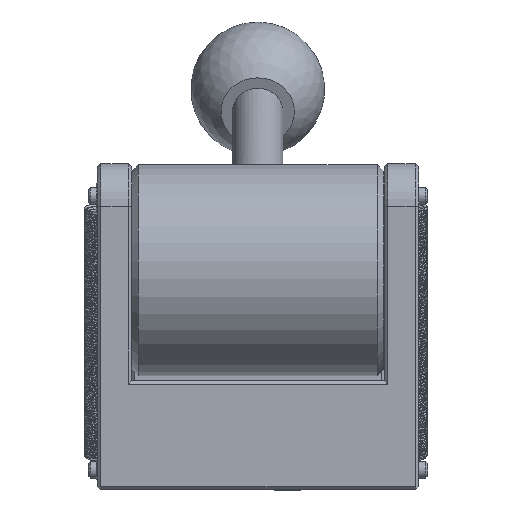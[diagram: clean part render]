
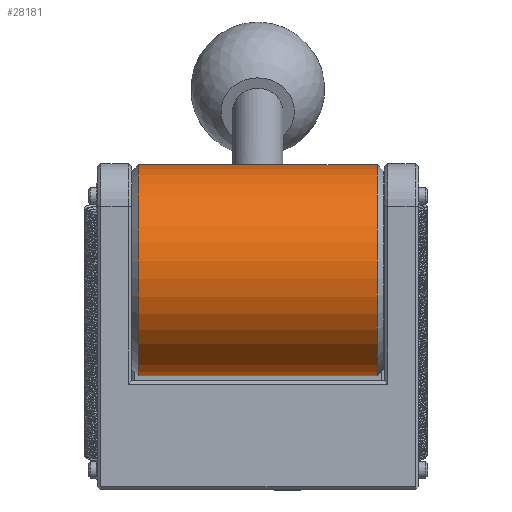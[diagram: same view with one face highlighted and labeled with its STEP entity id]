
A CAD part, left-side view. The second image highlights one B-rep face of the part: STEP entity #28181.
In plain terms, the highlighted cylindrical face has radius 25.082 mm (diameter 50.165 mm), a full revolution.
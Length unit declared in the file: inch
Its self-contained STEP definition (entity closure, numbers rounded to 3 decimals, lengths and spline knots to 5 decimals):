
#28094=CARTESIAN_POINT('',(-4.25438,24.9723,-0.17069));
#28095=VERTEX_POINT('',#28094);
#28096=CARTESIAN_POINT('',(-4.64809,24.9723,0.73493));
#28097=DIRECTION('',(0.,-1.0,0.));
#28098=DIRECTION('',(-0.399,0.,0.917));
#28099=AXIS2_PLACEMENT_3D('',#28096,#28097,#28098);
#28100=CIRCLE('',#28099,0.9875);
#28101=EDGE_CURVE('',#28095,#28095,#28100,.T.);
#28106=CARTESIAN_POINT('',(-4.64809,26.08755,0.73493));
#28107=DIRECTION('',(0.,1.0,0.));
#28108=DIRECTION('',(0.399,0.,-0.917));
#28109=AXIS2_PLACEMENT_3D('',#28106,#28107,#28108);
#28110=CYLINDRICAL_SURFACE('',#28109,0.9875);
#28111=CARTESIAN_POINT('',(-4.25438,27.2028,-0.17069));
#28112=VERTEX_POINT('',#28111);
#28113=CARTESIAN_POINT('',(-4.64809,27.2028,0.73493));
#28114=DIRECTION('',(0.,1.0,0.));
#28115=DIRECTION('',(-0.399,0.,0.917));
#28116=AXIS2_PLACEMENT_3D('',#28113,#28114,#28115);
#28117=CIRCLE('',#28116,0.9875);
#28118=EDGE_CURVE('',#28112,#28112,#28117,.T.);
#28119=ORIENTED_EDGE('',*,*,#28118,.F.);
#28120=EDGE_LOOP('',(#28119));
#28121=FACE_OUTER_BOUND('',#28120,.T.);
#28122=CARTESIAN_POINT('',(-3.83964,25.95918,1.30201));
#28123=VERTEX_POINT('',#28122);
#28124=CARTESIAN_POINT('',(-3.68197,25.95918,0.93933));
#28125=VERTEX_POINT('',#28124);
#28126=CARTESIAN_POINT('',(-3.83964,25.95918,1.30201));
#28127=CARTESIAN_POINT('',(-3.83427,25.94507,1.29435));
#28128=CARTESIAN_POINT('',(-3.82821,25.93216,1.28547));
#28129=CARTESIAN_POINT('',(-3.81033,25.89999,1.25816));
#28130=CARTESIAN_POINT('',(-3.79632,25.88186,1.23543));
#28131=CARTESIAN_POINT('',(-3.76828,25.85776,1.18432));
#28132=CARTESIAN_POINT('',(-3.75432,25.8518,1.1559));
#28133=CARTESIAN_POINT('',(-3.73061,25.8518,1.10138));
#28134=CARTESIAN_POINT('',(-3.71936,25.85776,1.07179));
#28135=CARTESIAN_POINT('',(-3.70111,25.88186,1.01642));
#28136=CARTESIAN_POINT('',(-3.69404,25.89999,0.99067));
#28137=CARTESIAN_POINT('',(-3.68627,25.93216,0.95897));
#28138=CARTESIAN_POINT('',(-3.68391,25.94507,0.94847));
#28139=CARTESIAN_POINT('',(-3.68197,25.95918,0.93933));
#28140=B_SPLINE_CURVE_WITH_KNOTS('',3,(#28126,#28127,#28128,#28129,#28130,#28131,#28132,#28133,#28134,#28135,#28136,#28137,#28138,#28139),.UNSPECIFIED.,.F.,.U.,(4,2,2,2,2,2,4),(0.84343,0.89177,0.98094,1.07011,1.15928,1.24845,1.29679),.UNSPECIFIED.);
#28141=EDGE_CURVE('',#28123,#28125,#28140,.T.);
#28142=ORIENTED_EDGE('',*,*,#28141,.F.);
#28143=CARTESIAN_POINT('',(-3.83964,26.21592,1.30201));
#28144=VERTEX_POINT('',#28143);
#28145=CARTESIAN_POINT('',(-3.83964,26.21592,1.30201));
#28146=DIRECTION('',(0.0,-1.0,0.0));
#28147=VECTOR('',#28146,0.25673);
#28148=LINE('',#28145,#28147);
#28149=EDGE_CURVE('',#28144,#28123,#28148,.T.);
#28150=ORIENTED_EDGE('',*,*,#28149,.F.);
#28151=CARTESIAN_POINT('',(-3.68197,26.21592,0.93933));
#28152=VERTEX_POINT('',#28151);
#28153=CARTESIAN_POINT('',(-3.68197,26.21592,0.93933));
#28154=CARTESIAN_POINT('',(-3.68391,26.23003,0.94847));
#28155=CARTESIAN_POINT('',(-3.68627,26.24294,0.95897));
#28156=CARTESIAN_POINT('',(-3.69404,26.27512,0.99067));
#28157=CARTESIAN_POINT('',(-3.70111,26.29324,1.01642));
#28158=CARTESIAN_POINT('',(-3.71936,26.31734,1.07179));
#28159=CARTESIAN_POINT('',(-3.73061,26.3233,1.10138));
#28160=CARTESIAN_POINT('',(-3.75432,26.3233,1.1559));
#28161=CARTESIAN_POINT('',(-3.76828,26.31734,1.18432));
#28162=CARTESIAN_POINT('',(-3.79632,26.29324,1.23543));
#28163=CARTESIAN_POINT('',(-3.81033,26.27512,1.25816));
#28164=CARTESIAN_POINT('',(-3.82821,26.24294,1.28547));
#28165=CARTESIAN_POINT('',(-3.83427,26.23003,1.29435));
#28166=CARTESIAN_POINT('',(-3.83964,26.21592,1.30201));
#28167=B_SPLINE_CURVE_WITH_KNOTS('',3,(#28153,#28154,#28155,#28156,#28157,#28158,#28159,#28160,#28161,#28162,#28163,#28164,#28165,#28166),.UNSPECIFIED.,.F.,.U.,(4,2,2,2,2,2,4),(0.13002,0.17836,0.26753,0.3567,0.44587,0.53504,0.58339),.UNSPECIFIED.);
#28168=EDGE_CURVE('',#28152,#28144,#28167,.T.);
#28169=ORIENTED_EDGE('',*,*,#28168,.F.);
#28170=CARTESIAN_POINT('',(-3.68197,25.95918,0.93933));
#28171=DIRECTION('',(0.0,1.0,0.0));
#28172=VECTOR('',#28171,0.25673);
#28173=LINE('',#28170,#28172);
#28174=EDGE_CURVE('',#28125,#28152,#28173,.T.);
#28175=ORIENTED_EDGE('',*,*,#28174,.F.);
#28176=EDGE_LOOP('',(#28142,#28150,#28169,#28175));
#28177=FACE_BOUND('',#28176,.T.);
#28178=ORIENTED_EDGE('',*,*,#28101,.F.);
#28179=EDGE_LOOP('',(#28178));
#28180=FACE_BOUND('',#28179,.T.);
#28181=ADVANCED_FACE('',(#28121,#28177,#28180),#28110,.T.);
